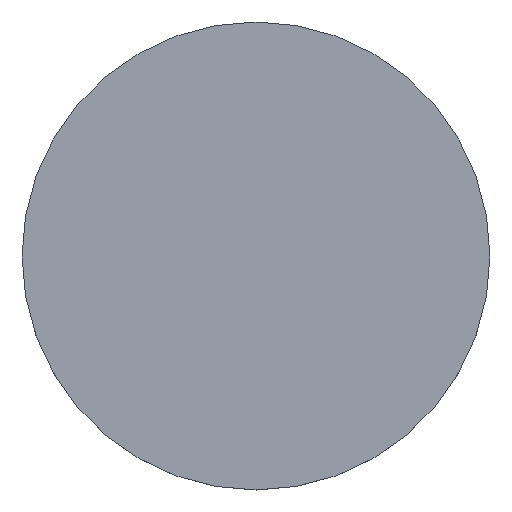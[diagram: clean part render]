
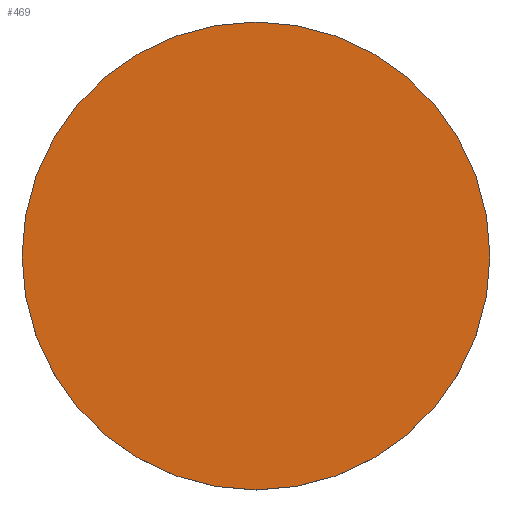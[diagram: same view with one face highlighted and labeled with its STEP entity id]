
A CAD part, top view. The second image highlights one B-rep face of the part: STEP entity #469.
In plain terms, the highlighted planar face has unit normal (0, 0, 1).
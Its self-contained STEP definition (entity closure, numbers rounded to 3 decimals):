
#35 = VERTEX_POINT ( 'NONE', #513 ) ;
#40 = FACE_OUTER_BOUND ( 'NONE', #515, .T. ) ;
#50 = ORIENTED_EDGE ( 'NONE', *, *, #252, .T. ) ;
#73 = AXIS2_PLACEMENT_3D ( 'NONE', #108, #401, #451 ) ;
#89 = DIRECTION ( 'NONE',  ( 1., 0., 0. ) ) ;
#102 = CARTESIAN_POINT ( 'NONE',  ( -74207.804, 43436.587, 4. ) ) ;
#108 = CARTESIAN_POINT ( 'NONE',  ( -74207.804, 43436.587, 4. ) ) ;
#139 = EDGE_CURVE ( 'NONE', #35, #484, #152, .T. ) ;
#152 = CIRCLE ( 'NONE', #538, 29.9 ) ;
#206 = CARTESIAN_POINT ( 'NONE',  ( -74237.704, 43436.587, 4. ) ) ;
#252 = EDGE_CURVE ( 'NONE', #484, #35, #455, .T. ) ;
#264 = DIRECTION ( 'NONE',  ( 1., 0., 0. ) ) ;
#288 = AXIS2_PLACEMENT_3D ( 'NONE', #377, #416, #89 ) ;
#363 = ORIENTED_EDGE ( 'NONE', *, *, #139, .T. ) ;
#377 = CARTESIAN_POINT ( 'NONE',  ( -74207.804, 43436.587, 4. ) ) ;
#379 = PLANE ( 'NONE',  #288 ) ;
#401 = DIRECTION ( 'NONE',  ( 0., 0., 1. ) ) ;
#416 = DIRECTION ( 'NONE',  ( 0., 0., 1. ) ) ;
#435 = DIRECTION ( 'NONE',  ( 0., 0., 1. ) ) ;
#451 = DIRECTION ( 'NONE',  ( 1., 0., 0. ) ) ;
#455 = CIRCLE ( 'NONE', #73, 29.9 ) ;
#469 = ADVANCED_FACE ( 'NONE', ( #40 ), #379, .T. ) ;
#484 = VERTEX_POINT ( 'NONE', #206 ) ;
#513 = CARTESIAN_POINT ( 'NONE',  ( -74177.904, 43436.587, 4. ) ) ;
#515 = EDGE_LOOP ( 'NONE', ( #50, #363 ) ) ;
#538 = AXIS2_PLACEMENT_3D ( 'NONE', #102, #435, #264 ) ;
